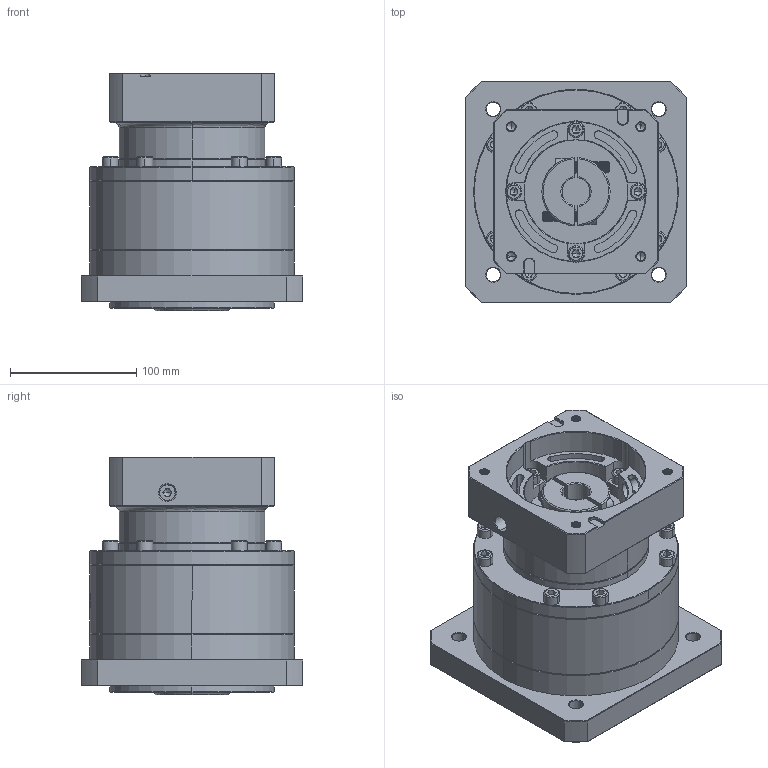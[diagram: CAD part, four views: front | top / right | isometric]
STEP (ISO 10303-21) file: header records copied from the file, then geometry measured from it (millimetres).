
FILE_DESCRIPTION (( 'STEP AP214' ), '1' );
FILE_NAME ('ZF160A-K35-L1-P2-22-110-145-M8.step', '2023-09-03T07:00:55', ( '' ), ( '' ), 'SwSTEP 2.0', 'SolidWorks 2016', '' );
FILE_SCHEMA (( 'AUTOMOTIVE_DESIGN' ));
Length unit declared in the file: millimetre
Products named in the file (1): ZF160A-K35-L1-P2-22-110-145-M8
Bounding box: 175 x 175 x 187.8 mm (x, y, z)
Volume: 3043371.6 mm3; surface area: 306601.7 mm2
Topology: 7 solids, 7 shells, 2421 faces, 6469 edges, 4162 vertices
Faces by surface type: plane 1140, cylinder 470, bspline 403, cone 354, torus 54
Entity records: 131510 total; most frequent: CARTESIAN_POINT 49445, ORIENTED_EDGE 12834, DIRECTION 9826, EDGE_CURVE 6417, VERTEX_POINT 4162, VECTOR 3390, LINE 3390, AXIS2_PLACEMENT_3D 3218
